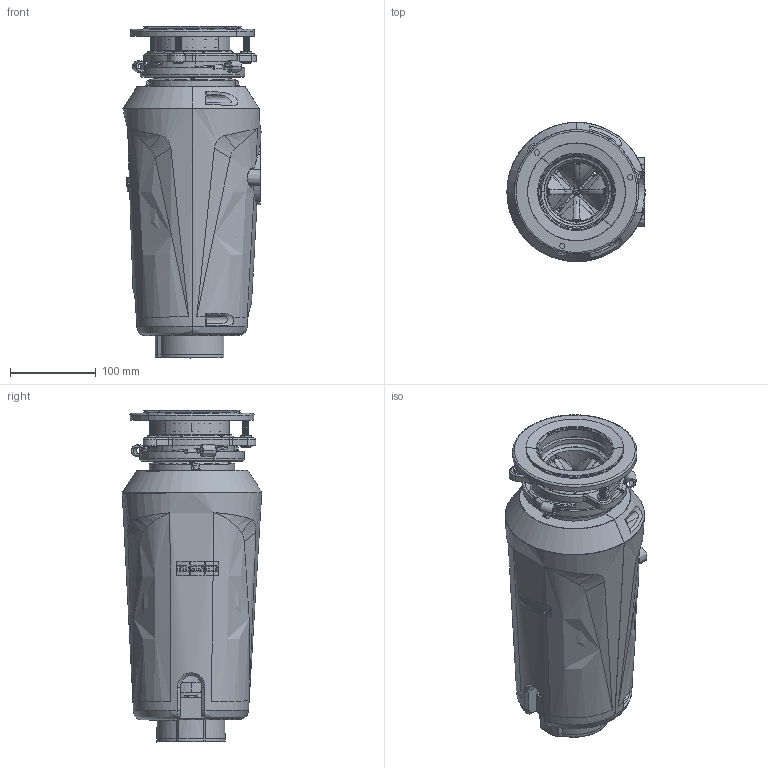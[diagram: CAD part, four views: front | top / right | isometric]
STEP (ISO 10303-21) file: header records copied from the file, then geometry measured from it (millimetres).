
FILE_DESCRIPTION(/* description */ (''),/* implementation_level */ '2;1');
FILE_NAME(/* name */ '3D001_Food-Waste-Disposers_Elite-Slimline_Slim-125-100-75',/* time_stamp */ '2024-03-28T12:15:57+01:00',/* author */ (''),/* organization */ (''),/* preprocessor_version */ 'ST-DEVELOPER v19.2',/* originating_system */ 'Rhino 8.4',/* authorisation */ '');
FILE_SCHEMA (('CONFIG_CONTROL_DESIGN'));
Products named in the file (10): Document; FLANGE_ASM_1_ASM_1_ASM_1_ASM; SINKFLANGE_3BOLT_4_1_1; SPRING_5_1_1; U_MOUNTING_3BOLT_9_1_1; YABAN2_7_1_1; RUBBERRING_3BOLT_10_1_1; PRT0001_1_1; OUT_SCREW_BOLT_1_1; FIBER_RING_3B_1_1
Bounding box: 161.1 x 162.61 x 387.03 mm (x, y, z)
Volume: 526115.8 mm3; surface area: 579821.2 mm2
Topology: 25 solids, 31 shells, 3511 faces, 9659 edges, 6270 vertices
Faces by surface type: plane 1974, bspline 1002, cylinder 535
Entity records: 159822 total; most frequent: CARTESIAN_POINT 97225, ORIENTED_EDGE 17903, EDGE_CURVE 9011, B_SPLINE_CURVE_WITH_KNOTS 7329, VERTEX_POINT 5850, DIRECTION 4017, EDGE_LOOP 3460, ADVANCED_FACE 3285
